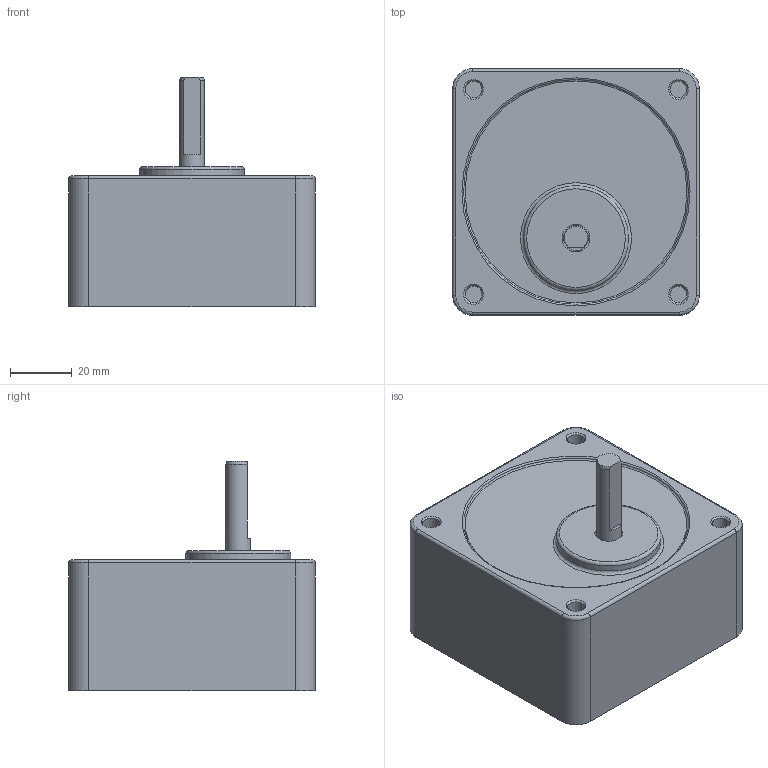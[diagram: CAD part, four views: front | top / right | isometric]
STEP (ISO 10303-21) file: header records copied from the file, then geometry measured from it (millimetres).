
FILE_DESCRIPTION((''),'2;1');
FILE_NAME('D:\미주향3D\GEAR HEAD\GEARHEAD\S8DA3~18.stp','2013-12-13T13:12:26',('leebh'),(''),'Autodesk Inventor 2011','Autodesk Inventor 2011','');
FILE_SCHEMA(('AUTOMOTIVE_DESIGN { 1 0 10303 214 1 1 1 1 }'));
Length unit declared in the file: millimetre
Products named in the file (1): 부품5
Bounding box: 80 x 80 x 74.5 mm (x, y, z)
Volume: 246469.7 mm3; surface area: 30803 mm2
Topology: 1 solids, 1 shells, 48 faces, 93 edges, 57 vertices
Faces by surface type: plane 18, cylinder 17, torus 8, cone 5
Full cylindrical faces by diameter (mm): 5.5 x4, 8 x2, 9 x1, 34 x1, 73 x1
Entity records: 1156 total; most frequent: DIRECTION 220, CARTESIAN_POINT 184, ORIENTED_EDGE 150, AXIS2_PLACEMENT_3D 98, EDGE_CURVE 75, EDGE_LOOP 75, VERTEX_POINT 56, CIRCLE 49
